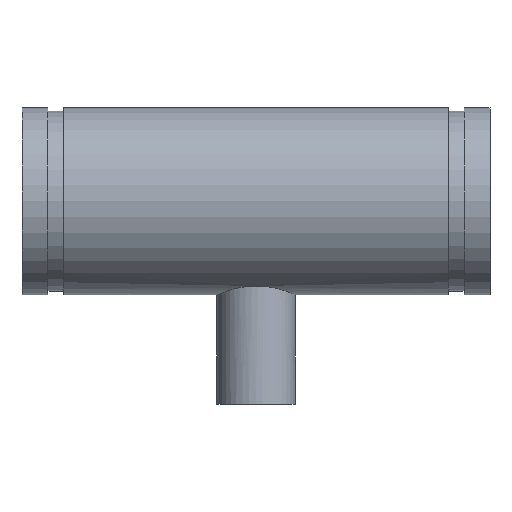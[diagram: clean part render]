
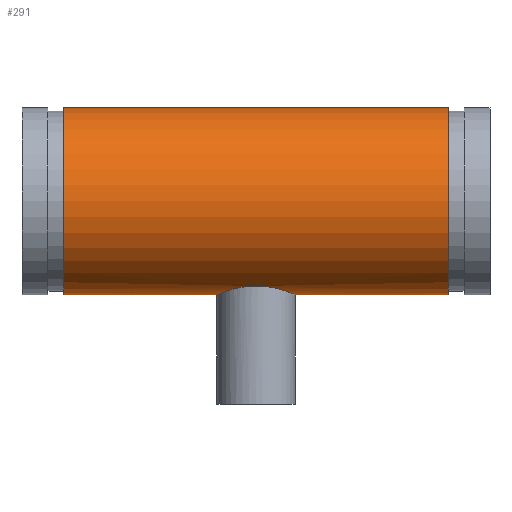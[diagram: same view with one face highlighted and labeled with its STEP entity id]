
A CAD part, top view. The second image highlights one B-rep face of the part: STEP entity #291.
In plain terms, the highlighted cylindrical face has radius 57.15 mm (diameter 114.3 mm), a full revolution.
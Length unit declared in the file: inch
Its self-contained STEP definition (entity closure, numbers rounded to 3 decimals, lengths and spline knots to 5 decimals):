
#45=B_SPLINE_CURVE_WITH_KNOTS('',3,(#511,#512,#513,#514,#515,#516,#517,
#518,#519,#520,#521,#522,#523,#524,#525,#526,#527,#528,#529,#530,#531,#532,
#533,#534,#535,#536,#537,#538,#539,#540,#541,#542,#543,#544,#545,#546,#547,
#548,#549,#550,#551,#552,#553,#554,#555,#556,#557,#558,#559,#560),
 .UNSPECIFIED.,.F.,.F.,(4,2,2,2,2,2,2,2,2,2,2,2,2,2,2,2,2,2,2,2,2,2,2,2,
4),(0.,0.46112,0.92224,1.38336,1.84448,
2.30502,2.76555,3.22608,3.68661,4.14714,
4.60767,5.0682,5.52873,5.98985,6.45097,
6.91209,7.37321,7.83434,8.29546,8.75658,
9.2177,9.67823,10.13876,10.59929,11.05982),
 .UNSPECIFIED.);
#46=B_SPLINE_CURVE_WITH_KNOTS('',3,(#561,#562,#563,#564,#565,#566,#567,
#568,#569,#570,#571,#572,#573,#574,#575,#576,#577,#578),.UNSPECIFIED.,.F.,
 .F.,(4,2,2,2,2,2,2,2,4),(11.05982,11.52035,11.98088,
12.44141,12.90195,13.36307,13.82419,14.28531,
14.74643),.UNSPECIFIED.);
#51=LINE('',#508,#59);
#59=VECTOR('',#410,2.25);
#67=CYLINDRICAL_SURFACE('',#338,2.25);
#77=FACE_BOUND('',#108,.T.);
#88=FACE_OUTER_BOUND('',#107,.T.);
#107=EDGE_LOOP('',(#221,#222,#223,#224));
#108=EDGE_LOOP('',(#225,#226));
#121=CIRCLE('',#321,2.25);
#132=CIRCLE('',#337,2.25);
#141=VERTEX_POINT('',#476);
#152=VERTEX_POINT('',#505);
#153=VERTEX_POINT('',#509);
#154=VERTEX_POINT('',#510);
#165=EDGE_CURVE('',#141,#141,#121,.T.);
#178=EDGE_CURVE('',#152,#152,#132,.T.);
#179=EDGE_CURVE('',#152,#141,#51,.T.);
#180=EDGE_CURVE('',#153,#154,#45,.T.);
#181=EDGE_CURVE('',#154,#153,#46,.T.);
#221=ORIENTED_EDGE('',*,*,#178,.T.);
#222=ORIENTED_EDGE('',*,*,#179,.T.);
#223=ORIENTED_EDGE('',*,*,#165,.T.);
#224=ORIENTED_EDGE('',*,*,#179,.F.);
#225=ORIENTED_EDGE('',*,*,#180,.F.);
#226=ORIENTED_EDGE('',*,*,#181,.F.);
#291=ADVANCED_FACE('',(#88,#77),#67,.T.);
#321=AXIS2_PLACEMENT_3D('',#477,#372,#373);
#337=AXIS2_PLACEMENT_3D('',#506,#406,#407);
#338=AXIS2_PLACEMENT_3D('',#507,#408,#409);
#372=DIRECTION('center_axis',(-1.,0.,0.));
#373=DIRECTION('ref_axis',(0.,-1.,0.));
#406=DIRECTION('center_axis',(1.,0.,0.));
#407=DIRECTION('ref_axis',(0.,-1.,0.));
#408=DIRECTION('center_axis',(-1.,0.,0.));
#409=DIRECTION('ref_axis',(0.,-1.,0.));
#410=DIRECTION('',(1.,0.,0.));
#476=CARTESIAN_POINT('',(4.63,2.25,0.));
#477=CARTESIAN_POINT('Origin',(4.63,0.,0.));
#505=CARTESIAN_POINT('',(-4.63,2.25,0.));
#506=CARTESIAN_POINT('Origin',(-4.63,0.,0.));
#507=CARTESIAN_POINT('Origin',(5.63,0.,0.));
#508=CARTESIAN_POINT('',(5.63,2.25,0.));
#509=CARTESIAN_POINT('',(0.,-2.03961,-0.95));
#510=CARTESIAN_POINT('',(-0.95,-2.25,0.));
#511=CARTESIAN_POINT('Ctrl Pts',(0.,-2.03961,
-0.95));
#512=CARTESIAN_POINT('Ctrl Pts',(0.06051,-2.03961,-0.95));
#513=CARTESIAN_POINT('Ctrl Pts',(0.12281,-2.04238,-0.94413));
#514=CARTESIAN_POINT('Ctrl Pts',(0.24619,-2.05349,-0.9197));
#515=CARTESIAN_POINT('Ctrl Pts',(0.30727,-2.06182,-0.90116));
#516=CARTESIAN_POINT('Ctrl Pts',(0.42402,-2.08243,-0.85247));
#517=CARTESIAN_POINT('Ctrl Pts',(0.47979,-2.09469,-0.82229));
#518=CARTESIAN_POINT('Ctrl Pts',(0.58277,-2.12064,-0.75282));
#519=CARTESIAN_POINT('Ctrl Pts',(0.62997,-2.13431,-0.71353));
#520=CARTESIAN_POINT('Ctrl Pts',(0.71348,-2.16044,-0.63002));
#521=CARTESIAN_POINT('Ctrl Pts',(0.75276,-2.17384,-0.58285));
#522=CARTESIAN_POINT('Ctrl Pts',(0.82225,-2.19887,-0.47986));
#523=CARTESIAN_POINT('Ctrl Pts',(0.85246,-2.21047,-0.42405));
#524=CARTESIAN_POINT('Ctrl Pts',(0.90118,-2.22971,-0.30722));
#525=CARTESIAN_POINT('Ctrl Pts',(0.91972,-2.23736,-0.2461));
#526=CARTESIAN_POINT('Ctrl Pts',(0.94414,-2.2475,-0.1227));
#527=CARTESIAN_POINT('Ctrl Pts',(0.95,-2.25,-0.06044));
#528=CARTESIAN_POINT('Ctrl Pts',(0.95,-2.25,0.06044));
#529=CARTESIAN_POINT('Ctrl Pts',(0.94414,-2.2475,0.1227));
#530=CARTESIAN_POINT('Ctrl Pts',(0.91972,-2.23736,0.2461));
#531=CARTESIAN_POINT('Ctrl Pts',(0.90118,-2.22971,0.30722));
#532=CARTESIAN_POINT('Ctrl Pts',(0.85246,-2.21047,0.42405));
#533=CARTESIAN_POINT('Ctrl Pts',(0.82225,-2.19887,0.47986));
#534=CARTESIAN_POINT('Ctrl Pts',(0.75276,-2.17384,0.58285));
#535=CARTESIAN_POINT('Ctrl Pts',(0.71348,-2.16044,0.63002));
#536=CARTESIAN_POINT('Ctrl Pts',(0.62997,-2.13431,0.71353));
#537=CARTESIAN_POINT('Ctrl Pts',(0.58277,-2.12064,0.75282));
#538=CARTESIAN_POINT('Ctrl Pts',(0.47979,-2.09469,0.82229));
#539=CARTESIAN_POINT('Ctrl Pts',(0.42402,-2.08243,0.85247));
#540=CARTESIAN_POINT('Ctrl Pts',(0.30727,-2.06182,0.90116));
#541=CARTESIAN_POINT('Ctrl Pts',(0.24619,-2.05349,0.9197));
#542=CARTESIAN_POINT('Ctrl Pts',(0.12281,-2.04238,0.94413));
#543=CARTESIAN_POINT('Ctrl Pts',(0.06051,-2.03961,0.95));
#544=CARTESIAN_POINT('Ctrl Pts',(-0.06051,-2.03961,
0.95));
#545=CARTESIAN_POINT('Ctrl Pts',(-0.12281,-2.04238,0.94413));
#546=CARTESIAN_POINT('Ctrl Pts',(-0.24619,-2.05349,0.9197));
#547=CARTESIAN_POINT('Ctrl Pts',(-0.30727,-2.06182,0.90116));
#548=CARTESIAN_POINT('Ctrl Pts',(-0.42402,-2.08243,0.85247));
#549=CARTESIAN_POINT('Ctrl Pts',(-0.47979,-2.09469,0.82229));
#550=CARTESIAN_POINT('Ctrl Pts',(-0.58277,-2.12064,0.75282));
#551=CARTESIAN_POINT('Ctrl Pts',(-0.62997,-2.13431,0.71353));
#552=CARTESIAN_POINT('Ctrl Pts',(-0.71348,-2.16044,0.63002));
#553=CARTESIAN_POINT('Ctrl Pts',(-0.75276,-2.17384,0.58285));
#554=CARTESIAN_POINT('Ctrl Pts',(-0.82225,-2.19887,0.47986));
#555=CARTESIAN_POINT('Ctrl Pts',(-0.85246,-2.21047,0.42405));
#556=CARTESIAN_POINT('Ctrl Pts',(-0.90118,-2.22971,0.30722));
#557=CARTESIAN_POINT('Ctrl Pts',(-0.91972,-2.23736,0.2461));
#558=CARTESIAN_POINT('Ctrl Pts',(-0.94414,-2.2475,0.1227));
#559=CARTESIAN_POINT('Ctrl Pts',(-0.95,-2.25,0.06044));
#560=CARTESIAN_POINT('Ctrl Pts',(-0.95,-2.25,0.));
#561=CARTESIAN_POINT('Ctrl Pts',(-0.95,-2.25,0.));
#562=CARTESIAN_POINT('Ctrl Pts',(-0.95,-2.25,-0.06044));
#563=CARTESIAN_POINT('Ctrl Pts',(-0.94414,-2.2475,-0.1227));
#564=CARTESIAN_POINT('Ctrl Pts',(-0.91972,-2.23736,-0.2461));
#565=CARTESIAN_POINT('Ctrl Pts',(-0.90118,-2.22971,-0.30722));
#566=CARTESIAN_POINT('Ctrl Pts',(-0.85246,-2.21047,-0.42405));
#567=CARTESIAN_POINT('Ctrl Pts',(-0.82225,-2.19887,-0.47986));
#568=CARTESIAN_POINT('Ctrl Pts',(-0.75276,-2.17384,-0.58285));
#569=CARTESIAN_POINT('Ctrl Pts',(-0.71348,-2.16044,-0.63002));
#570=CARTESIAN_POINT('Ctrl Pts',(-0.62997,-2.13431,-0.71353));
#571=CARTESIAN_POINT('Ctrl Pts',(-0.58277,-2.12064,-0.75282));
#572=CARTESIAN_POINT('Ctrl Pts',(-0.47979,-2.09469,-0.82229));
#573=CARTESIAN_POINT('Ctrl Pts',(-0.42402,-2.08243,-0.85247));
#574=CARTESIAN_POINT('Ctrl Pts',(-0.30727,-2.06182,-0.90116));
#575=CARTESIAN_POINT('Ctrl Pts',(-0.24619,-2.05349,-0.9197));
#576=CARTESIAN_POINT('Ctrl Pts',(-0.12281,-2.04238,-0.94413));
#577=CARTESIAN_POINT('Ctrl Pts',(-0.06051,-2.03961,
-0.95));
#578=CARTESIAN_POINT('Ctrl Pts',(0.,-2.03961,
-0.95));
